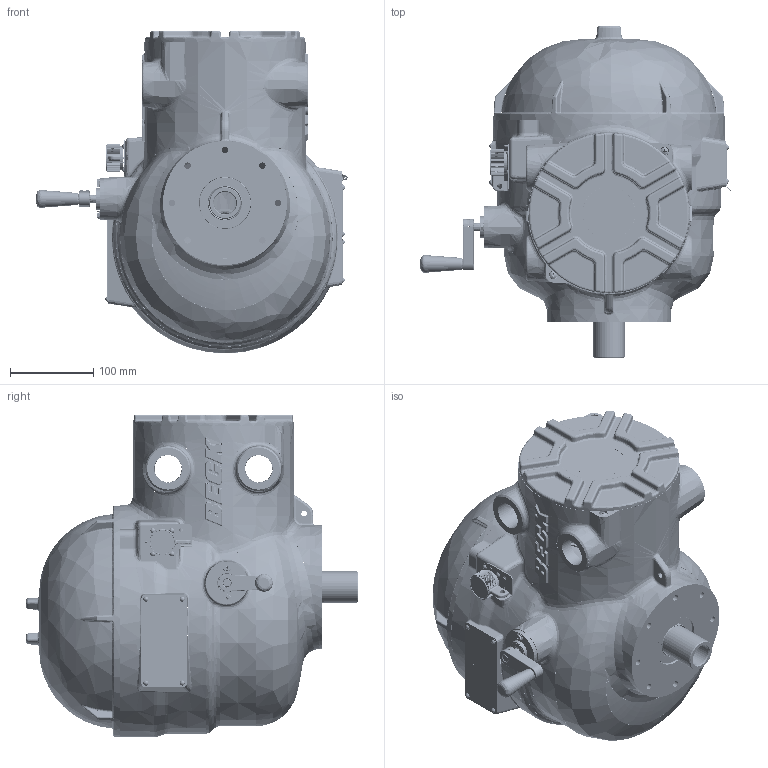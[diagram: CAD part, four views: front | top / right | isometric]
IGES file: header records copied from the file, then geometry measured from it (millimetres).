
Start section: SolidWorks IGES file using analytic representation for surfaces
Global section: file name: J:\Engineering\USERS\BEH\Group 57\Website Models\G57-100 18-5700-01\18-5700-01.IGS; native system: SolidWorks 2019; preprocessor: SolidWorks 2019; author: beheisey; date: 220914.085215; units: inch
Bounding box: 374.42 x 399.59 x 388.43 mm (x, y, z)
Surface area: 624495.7 mm2 (no closed solid volume)
Topology: 0 solids, 0 shells, 2305 faces, 60489 edges, 60400 vertices
Faces by surface type: bspline 1550, revolution 755
